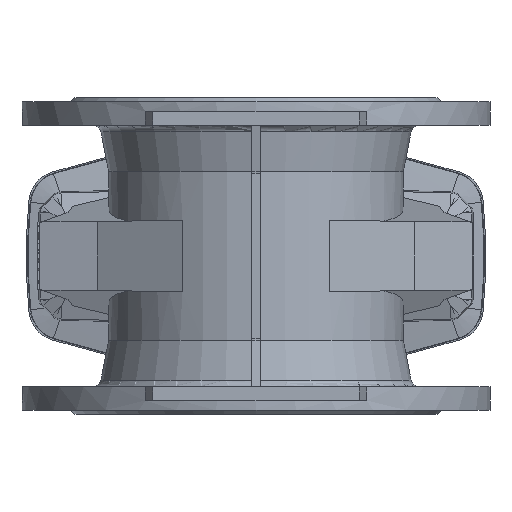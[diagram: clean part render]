
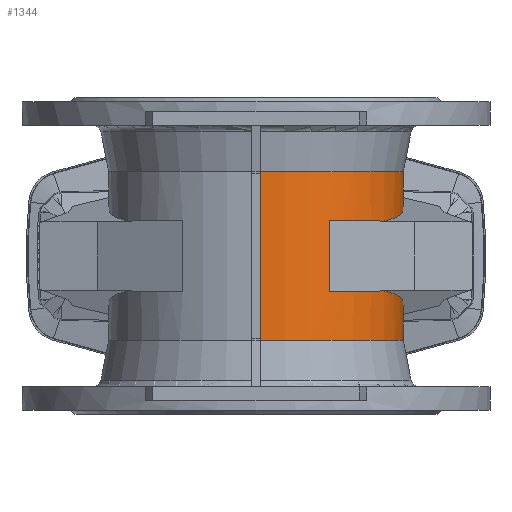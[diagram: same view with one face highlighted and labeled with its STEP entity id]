
A CAD part, front view. The second image highlights one B-rep face of the part: STEP entity #1344.
In plain terms, the highlighted cylindrical face has radius 107 mm (diameter 214 mm), a partial arc.
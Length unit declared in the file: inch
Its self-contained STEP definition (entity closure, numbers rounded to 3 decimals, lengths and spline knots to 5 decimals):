
#58 = EDGE_LOOP ( 'NONE', ( #300, #301, #302, #303, #304, #305, #306, #307, #308, #309 ) ) ;
#300 = ORIENTED_EDGE ( 'NONE', *, *, #1331, .F. ) ;
#301 = ORIENTED_EDGE ( 'NONE', *, *, #1322, .F. ) ;
#302 = ORIENTED_EDGE ( 'NONE', *, *, #1318, .T. ) ;
#303 = ORIENTED_EDGE ( 'NONE', *, *, #1327, .T. ) ;
#304 = ORIENTED_EDGE ( 'NONE', *, *, #1314, .T. ) ;
#305 = ORIENTED_EDGE ( 'NONE', *, *, #9744, .F. ) ;
#306 = ORIENTED_EDGE ( 'NONE', *, *, #5478, .F. ) ;
#307 = ORIENTED_EDGE ( 'NONE', *, *, #5477, .F. ) ;
#308 = ORIENTED_EDGE ( 'NONE', *, *, #5475, .F. ) ;
#309 = ORIENTED_EDGE ( 'NONE', *, *, #5476, .T. ) ;
#585 = VERTEX_POINT ( 'NONE', #1554 ) ;
#595 = VERTEX_POINT ( 'NONE', #3503 ) ;
#602 = VERTEX_POINT ( 'NONE', #5604 ) ;
#605 = VERTEX_POINT ( 'NONE', #5607 ) ;
#606 = VERTEX_POINT ( 'NONE', #5608 ) ;
#607 = VERTEX_POINT ( 'NONE', #5609 ) ;
#678 = VERTEX_POINT ( 'NONE', #5680 ) ;
#1314 = EDGE_CURVE ( 'NONE', #606, #607, #3495, .T. ) ;
#1318 = EDGE_CURVE ( 'NONE', #678, #6874, #10381, .T. ) ;
#1322 = EDGE_CURVE ( 'NONE', #678, #3476, #10388, .T. ) ;
#1327 = EDGE_CURVE ( 'NONE', #6874, #606, #1702, .T. ) ;
#1331 = EDGE_CURVE ( 'NONE', #3476, #595, #10402, .T. ) ;
#1344 = ADVANCED_FACE ( 'NONE', ( #10422 ), #10428, .T. ) ;
#1554 = CARTESIAN_POINT ( 'NONE',  ( 0.11811, 4.21094, 2.4127 ) ) ;
#1702 =( BOUNDED_CURVE ( )  B_SPLINE_CURVE ( 3, ( #11593, #11589, #11597, #11598 ),
 .UNSPECIFIED., .F., .F. ) 
 B_SPLINE_CURVE_WITH_KNOTS ( ( 4, 4 ),
 ( 0.15281, 2.21534 ),
 .UNSPECIFIED. ) 
 CURVE ( )  GEOMETRIC_REPRESENTATION_ITEM ( )  RATIONAL_B_SPLINE_CURVE ( ( 1., 0.676, 0.676, 1. ) ) 
 REPRESENTATION_ITEM ( '' )  );
#2454 = AXIS2_PLACEMENT_3D ( 'NONE', #9196, #9197, #9198 ) ;
#3476 = VERTEX_POINT ( 'NONE', #6630 ) ;
#3495 =( BOUNDED_CURVE ( )  B_SPLINE_CURVE ( 3, ( #11514, #11524, #11525, #11527 ),
 .UNSPECIFIED., .F., .F. ) 
 B_SPLINE_CURVE_WITH_KNOTS ( ( 4, 4 ),
 ( 3.66136, 4.18879 ),
 .UNSPECIFIED. ) 
 CURVE ( )  GEOMETRIC_REPRESENTATION_ITEM ( )  RATIONAL_B_SPLINE_CURVE ( ( 1., 0.977, 0.977, 1. ) ) 
 REPRESENTATION_ITEM ( '' )  );
#3503 = CARTESIAN_POINT ( 'NONE',  ( 0.11811, -4.21094, 2.4127 ) ) ;
#5475 = EDGE_CURVE ( 'NONE', #585, #602, #8376, .T. ) ;
#5476 = EDGE_CURVE ( 'NONE', #585, #595, #8377, .T. ) ;
#5477 = EDGE_CURVE ( 'NONE', #602, #605, #6803, .T. ) ;
#5478 = EDGE_CURVE ( 'NONE', #605, #6947, #6804, .T. ) ;
#5584 = AXIS2_PLACEMENT_3D ( 'NONE', #11571, #11572, #11574 ) ;
#5604 = CARTESIAN_POINT ( 'NONE',  ( 0.11811, 4.21094, 1.9474 ) ) ;
#5607 = CARTESIAN_POINT ( 'NONE',  ( 3.65625, -2.09232, 0.99917 ) ) ;
#5608 = CARTESIAN_POINT ( 'NONE',  ( 3.65625, -2.09232, -0.99917 ) ) ;
#5609 = CARTESIAN_POINT ( 'NONE',  ( 2.1063, -3.64822, -1.02623 ) ) ;
#5680 = CARTESIAN_POINT ( 'NONE',  ( 0.11811, 4.21094, -2.4127 ) ) ;
#6630 = CARTESIAN_POINT ( 'NONE',  ( 0.11811, -4.21094, -2.4127 ) ) ;
#6803 =( BOUNDED_CURVE ( )  B_SPLINE_CURVE ( 3, ( #9194, #9195, #9200, #9201 ),
 .UNSPECIFIED., .F., .F. ) 
 B_SPLINE_CURVE_WITH_KNOTS ( ( 4, 4 ),
 ( 0.15281, 2.21534 ),
 .UNSPECIFIED. ) 
 CURVE ( )  GEOMETRIC_REPRESENTATION_ITEM ( )  RATIONAL_B_SPLINE_CURVE ( ( 1., 0.676, 0.676, 1. ) ) 
 REPRESENTATION_ITEM ( '' )  );
#6804 =( BOUNDED_CURVE ( )  B_SPLINE_CURVE ( 3, ( #9190, #9199, #9204, #9205 ),
 .UNSPECIFIED., .F., .F. ) 
 B_SPLINE_CURVE_WITH_KNOTS ( ( 4, 4 ),
 ( 3.66136, 4.18879 ),
 .UNSPECIFIED. ) 
 CURVE ( )  GEOMETRIC_REPRESENTATION_ITEM ( )  RATIONAL_B_SPLINE_CURVE ( ( 1., 0.977, 0.977, 1. ) ) 
 REPRESENTATION_ITEM ( '' )  );
#6874 = VERTEX_POINT ( 'NONE', #9563 ) ;
#6947 = VERTEX_POINT ( 'NONE', #9587 ) ;
#8376 = LINE ( 'NONE', #9186, #8378 ) ;
#8377 = CIRCLE ( 'NONE', #2454, 4.2126 ) ;
#8378 = VECTOR ( 'NONE', #9181, 39.37008 ) ;
#8477 = LINE ( 'NONE', #9624, #8485 ) ;
#8485 = VECTOR ( 'NONE', #9625, 39.37008 ) ;
#9181 = DIRECTION ( 'NONE',  ( 0., 0., -1. ) ) ;
#9186 = CARTESIAN_POINT ( 'NONE',  ( 0.11811, 4.21094, 0. ) ) ;
#9190 = CARTESIAN_POINT ( 'NONE',  ( 3.65625, -2.09232, 0.99917 ) ) ;
#9194 = CARTESIAN_POINT ( 'NONE',  ( 0.11811, 4.21094, 1.9474 ) ) ;
#9195 = CARTESIAN_POINT ( 'NONE',  ( 3.68193, 4.11098, 1.87054 ) ) ;
#9196 = CARTESIAN_POINT ( 'NONE',  ( 0., 0., 2.4127 ) ) ;
#9197 = DIRECTION ( 'NONE',  ( 0., 0., -1. ) ) ;
#9198 = DIRECTION ( 'NONE',  ( -1., 0., 0. ) ) ;
#9199 = CARTESIAN_POINT ( 'NONE',  ( 3.28407, -2.74269, 1.00567 ) ) ;
#9200 = CARTESIAN_POINT ( 'NONE',  ( 5.42704, 1.00205, 1.40285 ) ) ;
#9201 = CARTESIAN_POINT ( 'NONE',  ( 3.65625, -2.09232, 0.99917 ) ) ;
#9204 = CARTESIAN_POINT ( 'NONE',  ( 2.75523, -3.27355, 1.0149 ) ) ;
#9205 = CARTESIAN_POINT ( 'NONE',  ( 2.1063, -3.64822, 1.02623 ) ) ;
#9563 = CARTESIAN_POINT ( 'NONE',  ( 0.11811, 4.21094, -1.9474 ) ) ;
#9587 = CARTESIAN_POINT ( 'NONE',  ( 2.1063, -3.64822, 1.02623 ) ) ;
#9624 = CARTESIAN_POINT ( 'NONE',  ( 2.1063, -3.64822, 4.52756 ) ) ;
#9625 = DIRECTION ( 'NONE',  ( 0., 0., -1. ) ) ;
#9744 = EDGE_CURVE ( 'NONE', #6947, #607, #8477, .T. ) ;
#10381 = LINE ( 'NONE', #11550, #10385 ) ;
#10385 = VECTOR ( 'NONE', #11541, 39.37008 ) ;
#10388 = CIRCLE ( 'NONE', #5584, 4.2126 ) ;
#10402 = LINE ( 'NONE', #11595, #10404 ) ;
#10404 = VECTOR ( 'NONE', #11605, 39.37008 ) ;
#10422 = FACE_OUTER_BOUND ( 'NONE', #58, .T. ) ;
#10428 = CYLINDRICAL_SURFACE ( 'NONE', #12575, 4.2126 ) ;
#11514 = CARTESIAN_POINT ( 'NONE',  ( 3.65625, -2.09232, -0.99917 ) ) ;
#11524 = CARTESIAN_POINT ( 'NONE',  ( 3.28407, -2.74269, -1.00567 ) ) ;
#11525 = CARTESIAN_POINT ( 'NONE',  ( 2.75523, -3.27355, -1.0149 ) ) ;
#11527 = CARTESIAN_POINT ( 'NONE',  ( 2.1063, -3.64822, -1.02623 ) ) ;
#11541 = DIRECTION ( 'NONE',  ( 0., 0., 1. ) ) ;
#11550 = CARTESIAN_POINT ( 'NONE',  ( 0.11811, 4.21094, 0. ) ) ;
#11571 = CARTESIAN_POINT ( 'NONE',  ( 0., 0., -2.4127 ) ) ;
#11572 = DIRECTION ( 'NONE',  ( 0., 0., -1. ) ) ;
#11574 = DIRECTION ( 'NONE',  ( -1., 0., 0. ) ) ;
#11589 = CARTESIAN_POINT ( 'NONE',  ( 3.68193, 4.11098, -1.87054 ) ) ;
#11593 = CARTESIAN_POINT ( 'NONE',  ( 0.11811, 4.21094, -1.9474 ) ) ;
#11595 = CARTESIAN_POINT ( 'NONE',  ( 0.11811, -4.21094, 0. ) ) ;
#11597 = CARTESIAN_POINT ( 'NONE',  ( 5.42704, 1.00205, -1.40285 ) ) ;
#11598 = CARTESIAN_POINT ( 'NONE',  ( 3.65625, -2.09232, -0.99917 ) ) ;
#11605 = DIRECTION ( 'NONE',  ( 0., 0., 1. ) ) ;
#11692 = DIRECTION ( 'NONE',  ( -1., 0., 0. ) ) ;
#11700 = DIRECTION ( 'NONE',  ( 0., 0., 1. ) ) ;
#11701 = CARTESIAN_POINT ( 'NONE',  ( 0., 0., 0. ) ) ;
#12575 = AXIS2_PLACEMENT_3D ( 'NONE', #11701, #11700, #11692 ) ;
